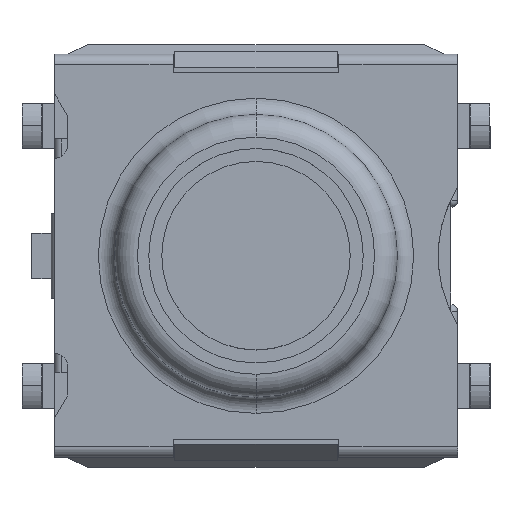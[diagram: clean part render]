
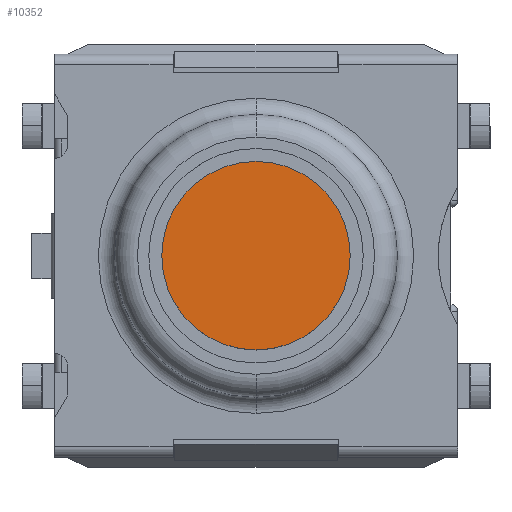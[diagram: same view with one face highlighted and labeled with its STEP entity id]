
A CAD part, top view. The second image highlights one B-rep face of the part: STEP entity #10352.
In plain terms, the highlighted planar face has unit normal (0, 0, 1) as drawn and (0, 1, 0) by its records, which use the part's own axes.
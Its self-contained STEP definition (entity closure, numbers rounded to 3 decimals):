
#465 = VERTEX_POINT ( 'NONE', #2939 ) ;
#538 = EDGE_CURVE ( 'NONE', #541, #465, #3137, .T. ) ;
#541 = VERTEX_POINT ( 'NONE', #3133 ) ;
#2939 = CARTESIAN_POINT ( 'NONE',  ( 0., 3.1, 1.45 ) ) ;
#3133 = CARTESIAN_POINT ( 'NONE',  ( 0., 3.1, -1.45 ) ) ;
#3134 = DIRECTION ( 'NONE',  ( 0., 0., -1. ) ) ;
#3135 = DIRECTION ( 'NONE',  ( 0., -1., 0. ) ) ;
#3136 = AXIS2_PLACEMENT_3D ( 'NONE', #3142, #3135, #3134 ) ;
#3137 = CIRCLE ( 'NONE', #3136, 1.45 ) ;
#3142 = CARTESIAN_POINT ( 'NONE',  ( 0., 3.1, 0. ) ) ;
#8545 = FACE_OUTER_BOUND ( 'NONE', #10353, .T. ) ;
#8570 = DIRECTION ( 'NONE',  ( 0., 0., -1. ) ) ;
#8571 = DIRECTION ( 'NONE',  ( 0., -1., 0. ) ) ;
#8572 = CARTESIAN_POINT ( 'NONE',  ( 0., 3.1, 0. ) ) ;
#8573 = AXIS2_PLACEMENT_3D ( 'NONE', #8572, #8571, #8570 ) ;
#8574 = CIRCLE ( 'NONE', #8573, 1.45 ) ;
#8576 = DIRECTION ( 'NONE',  ( 0., 0., 1. ) ) ;
#8577 = DIRECTION ( 'NONE',  ( 0., 1., 0. ) ) ;
#8578 = CARTESIAN_POINT ( 'NONE',  ( 0., 3.1, 0. ) ) ;
#8579 = AXIS2_PLACEMENT_3D ( 'NONE', #8578, #8577, #8576 ) ;
#8580 = PLANE ( 'NONE',  #8579 ) ;
#10352 = ADVANCED_FACE ( 'NONE', ( #8545 ), #8580, .T. ) ;
#10353 = EDGE_LOOP ( 'NONE', ( #10354, #10355 ) ) ;
#10354 = ORIENTED_EDGE ( 'NONE', *, *, #538, .F. ) ;
#10355 = ORIENTED_EDGE ( 'NONE', *, *, #10356, .F. ) ;
#10356 = EDGE_CURVE ( 'NONE', #465, #541, #8574, .T. ) ;
